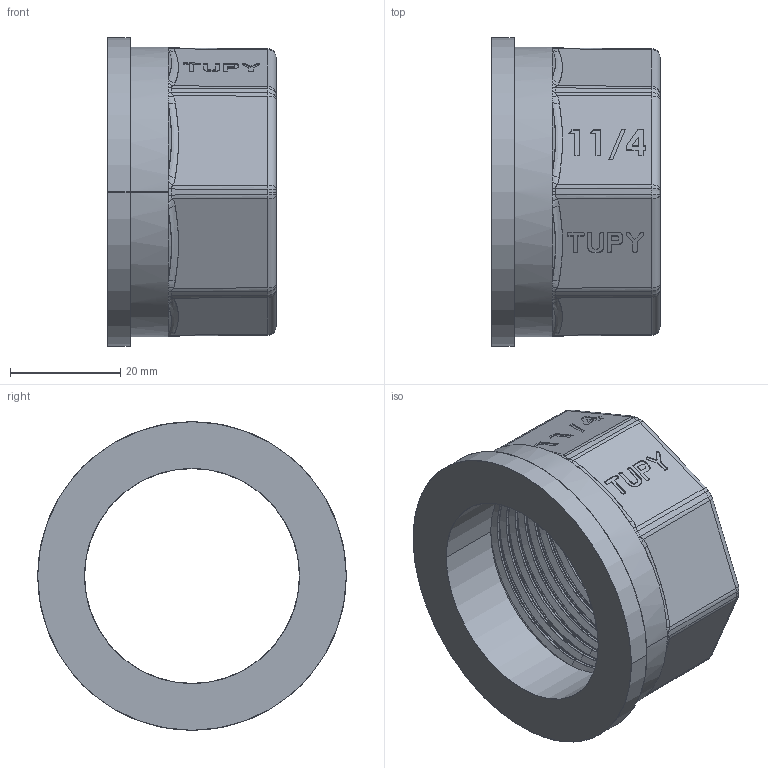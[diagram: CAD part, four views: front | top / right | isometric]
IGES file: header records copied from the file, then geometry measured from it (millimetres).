
Start section: SolidWorks IGES file using analytic representation for surfaces
Global section: file name: C:\Users\Joel Rosa\Desktop\Tubulação\12-83-OK\12-83-008.IGS; native system: SolidWorks 2011; preprocessor: SolidWorks 2011; author: Joel Rosa; date: 131216.235404; units: millimetre
Bounding box: 30.5 x 56 x 56 mm (x, y, z)
Surface area: 12592 mm2 (no closed solid volume)
Topology: 0 solids, 0 shells, 313 faces, 2296 edges, 2296 vertices
Faces by surface type: bspline 248, revolution 65
